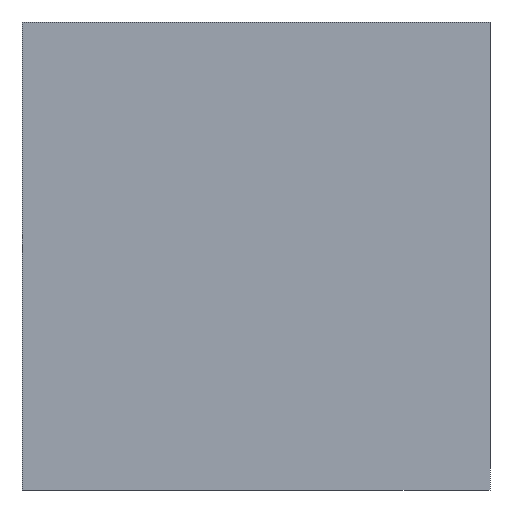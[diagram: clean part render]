
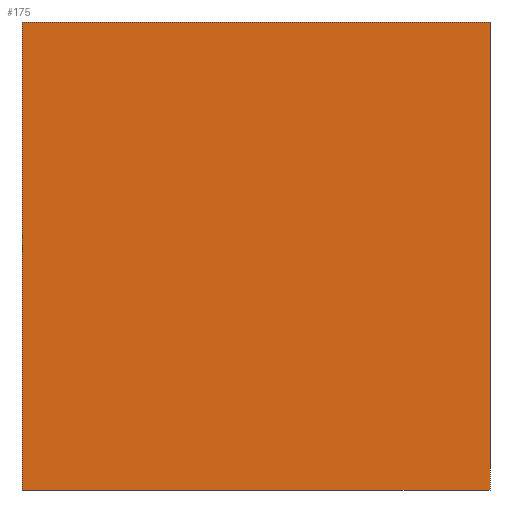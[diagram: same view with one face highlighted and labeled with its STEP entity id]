
A CAD part, front view. The second image highlights one B-rep face of the part: STEP entity #175.
In plain terms, the highlighted planar face has unit normal (0, -1, 0).
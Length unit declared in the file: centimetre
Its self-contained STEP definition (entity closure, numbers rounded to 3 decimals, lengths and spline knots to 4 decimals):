
#37 = EDGE_CURVE ( 'NONE', #477, #686, #458, .T. ) ;
#38 = CARTESIAN_POINT ( 'NONE',  ( 0., 0., 0. ) ) ;
#39 = CARTESIAN_POINT ( 'NONE',  ( 1000., 0., 1000. ) ) ;
#58 = DIRECTION ( 'NONE',  ( 1., 0., 0. ) ) ;
#72 = EDGE_CURVE ( 'NONE', #477, #805, #389, .T. ) ;
#128 = DIRECTION ( 'NONE',  ( 0., 0., -1. ) ) ;
#134 = VECTOR ( 'NONE', #520, 100. ) ;
#138 = EDGE_CURVE ( 'NONE', #805, #493, #824, .T. ) ;
#175 = ADVANCED_FACE ( 'NONE', ( #518 ), #185, .F. ) ;
#185 = PLANE ( 'NONE',  #516 ) ;
#197 = CARTESIAN_POINT ( 'NONE',  ( 0., 0., 0. ) ) ;
#223 = CARTESIAN_POINT ( 'NONE',  ( 0., 0., 1000. ) ) ;
#230 = DIRECTION ( 'NONE',  ( 0., 1., 0. ) ) ;
#240 = ORIENTED_EDGE ( 'NONE', *, *, #795, .F. ) ;
#241 = CARTESIAN_POINT ( 'NONE',  ( 0., 0., 1000. ) ) ;
#260 = CARTESIAN_POINT ( 'NONE',  ( 0., 0., 1000. ) ) ;
#365 = ORIENTED_EDGE ( 'NONE', *, *, #138, .T. ) ;
#389 = LINE ( 'NONE', #260, #790 ) ;
#439 = CARTESIAN_POINT ( 'NONE',  ( 1000., 0., 0. ) ) ;
#451 = VECTOR ( 'NONE', #58, 100. ) ;
#458 = LINE ( 'NONE', #651, #451 ) ;
#477 = VERTEX_POINT ( 'NONE', #223 ) ;
#493 = VERTEX_POINT ( 'NONE', #439 ) ;
#516 = AXIS2_PLACEMENT_3D ( 'NONE', #241, #230, #628 ) ;
#518 = FACE_OUTER_BOUND ( 'NONE', #811, .T. ) ;
#520 = DIRECTION ( 'NONE',  ( 0., 0., -1. ) ) ;
#577 = DIRECTION ( 'NONE',  ( 1., 0., 0. ) ) ;
#580 = VECTOR ( 'NONE', #577, 100. ) ;
#628 = DIRECTION ( 'NONE',  ( 0., 0., 1. ) ) ;
#650 = LINE ( 'NONE', #839, #134 ) ;
#651 = CARTESIAN_POINT ( 'NONE',  ( 0., 0., 1000. ) ) ;
#686 = VERTEX_POINT ( 'NONE', #39 ) ;
#697 = ORIENTED_EDGE ( 'NONE', *, *, #72, .T. ) ;
#742 = ORIENTED_EDGE ( 'NONE', *, *, #37, .F. ) ;
#790 = VECTOR ( 'NONE', #128, 100. ) ;
#795 = EDGE_CURVE ( 'NONE', #686, #493, #650, .T. ) ;
#805 = VERTEX_POINT ( 'NONE', #197 ) ;
#811 = EDGE_LOOP ( 'NONE', ( #365, #240, #742, #697 ) ) ;
#824 = LINE ( 'NONE', #38, #580 ) ;
#839 = CARTESIAN_POINT ( 'NONE',  ( 1000., 0., 1000. ) ) ;
